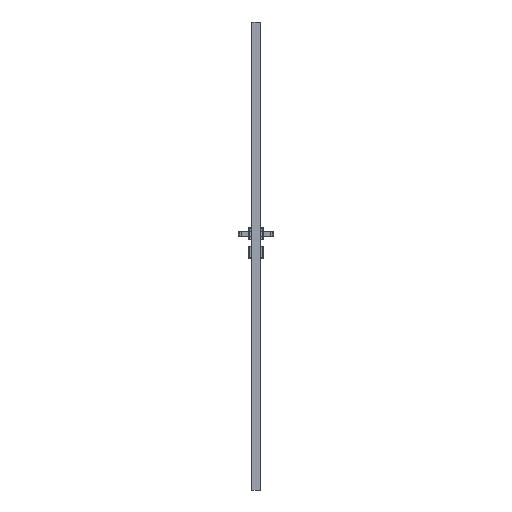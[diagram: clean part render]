
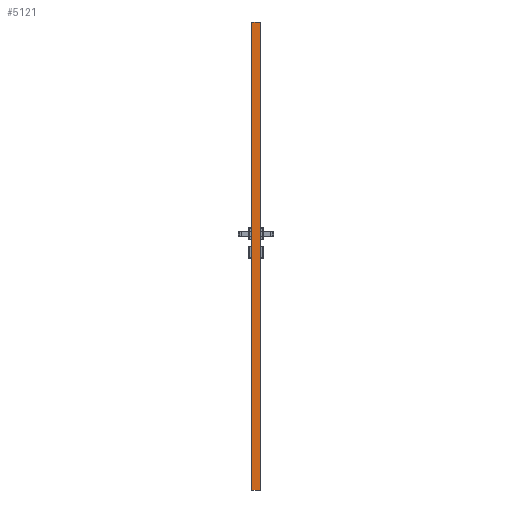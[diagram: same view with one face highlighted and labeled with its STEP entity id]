
A CAD part, left-side view. The second image highlights one B-rep face of the part: STEP entity #5121.
In plain terms, the highlighted planar face has unit normal (-1, 0, 0).
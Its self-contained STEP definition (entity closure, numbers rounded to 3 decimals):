
#5121=ADVANCED_FACE('',(#8043),#6456,.F.);
#6456=PLANE('',#38548);
#8043=FACE_OUTER_BOUND('',#10083,.T.);
#10083=EDGE_LOOP('',(#18204,#18205,#18206,#18207));
#18204=ORIENTED_EDGE('',*,*,#28562,.T.);
#18205=ORIENTED_EDGE('',*,*,#28563,.T.);
#18206=ORIENTED_EDGE('',*,*,#28564,.F.);
#18207=ORIENTED_EDGE('',*,*,#28495,.T.);
#23886=VERTEX_POINT('',#62062);
#23887=VERTEX_POINT('',#62064);
#23938=VERTEX_POINT('',#62303);
#23939=VERTEX_POINT('',#62305);
#28495=EDGE_CURVE('',#23887,#23886,#32323,.T.);
#28562=EDGE_CURVE('',#23886,#23938,#32344,.T.);
#28563=EDGE_CURVE('',#23938,#23939,#32345,.T.);
#28564=EDGE_CURVE('',#23887,#23939,#32346,.T.);
#32323=LINE('',#62063,#35419);
#32344=LINE('',#62302,#35440);
#32345=LINE('',#62304,#35441);
#32346=LINE('',#62306,#35442);
#35419=VECTOR('',#46506,1.);
#35440=VECTOR('',#46609,1.);
#35441=VECTOR('',#46610,1.);
#35442=VECTOR('',#46611,1.);
#38548=AXIS2_PLACEMENT_3D('',#62307,#46612,#46613);
#46506=DIRECTION('',(0.,-1.,0.));
#46609=DIRECTION('',(0.,0.,1.));
#46610=DIRECTION('',(0.,1.,0.));
#46611=DIRECTION('',(0.,0.,1.));
#46612=DIRECTION('',(1.,0.,0.));
#46613=DIRECTION('',(0.,1.,0.));
#62062=CARTESIAN_POINT('',(-309.,-38.35,0.));
#62063=CARTESIAN_POINT('',(-309.,-38.35,0.));
#62064=CARTESIAN_POINT('',(-309.,-1.65,0.));
#62302=CARTESIAN_POINT('',(-309.,-38.35,0.));
#62303=CARTESIAN_POINT('',(-309.,-38.35,2017.01));
#62304=CARTESIAN_POINT('',(-309.,0.,2017.01));
#62305=CARTESIAN_POINT('',(-309.,-1.65,2017.01));
#62306=CARTESIAN_POINT('',(-309.,-1.65,0.));
#62307=CARTESIAN_POINT('',(-309.,-38.35,0.));
